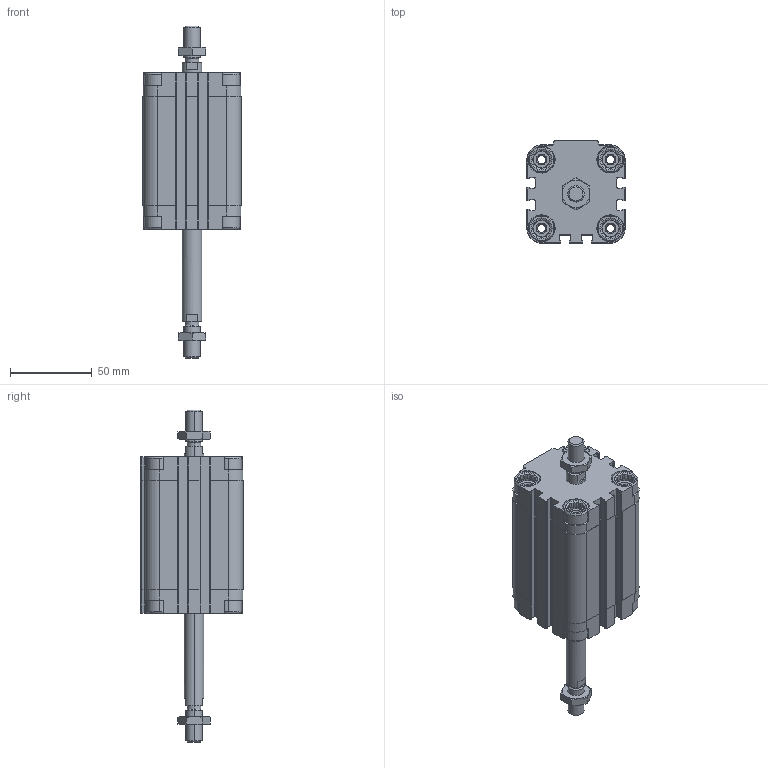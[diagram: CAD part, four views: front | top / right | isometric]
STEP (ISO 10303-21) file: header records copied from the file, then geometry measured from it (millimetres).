
FILE_DESCRIPTION (( 'STEP AP203' ), '1' );
FILE_NAME ('CDVU40-50M-P.STEP', '2020-07-21T15:16:46', ( '' ), ( '' ), 'SwSTEP 2.0', 'SolidWorks 2019', '' );
FILE_SCHEMA (( 'CONFIG_CONTROL_DESIGN' ));
Length unit declared in the file: millimetre
Products named in the file (1): CDVU40-50M-P
Bounding box: 60 x 62.5 x 202.5 mm (x, y, z)
Volume: 258175.4 mm3; surface area: 71329.3 mm2
Topology: 4 solids, 4 shells, 758 faces, 2004 edges, 1290 vertices
Faces by surface type: plane 438, cylinder 240, cone 80
Entity records: 24115 total; most frequent: CARTESIAN_POINT 5193, ORIENTED_EDGE 4000, DIRECTION 3862, EDGE_CURVE 2000, AXIS2_PLACEMENT_3D 1319, VERTEX_POINT 1290, VECTOR 1224, LINE 1224
